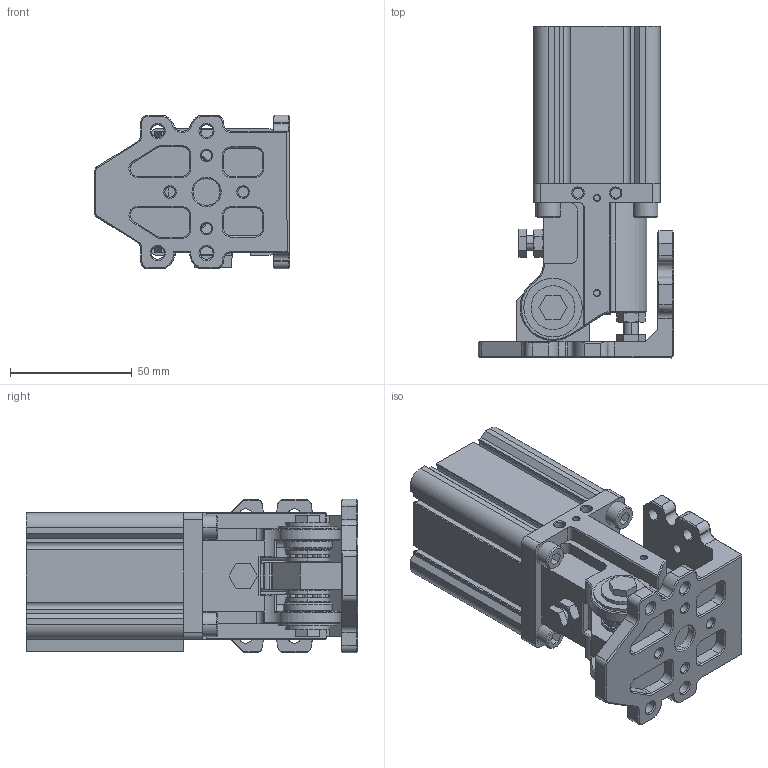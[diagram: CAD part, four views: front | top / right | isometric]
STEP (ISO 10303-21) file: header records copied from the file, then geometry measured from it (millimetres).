
FILE_DESCRIPTION(/* description */ (''),/* implementation_level */ '2;1');
FILE_NAME(/* name */ 'DHR2C-40M30-ZG-LB(2022).stp',/* time_stamp */ '2022-11-03T13:11:03+08:00',/* author */ (''),/* organization */ (''),/* preprocessor_version */ 'ST-DEVELOPER v14',/* originating_system */ 'SIEMENS PLM Software NX 8.0',/* authorisation */ '');
FILE_SCHEMA (('AP203_CONFIGURATION_CONTROLLED_3D_DESIGN_OF_MECHANICAL_PARTS_AND_ASSEMBLIES_MIM_LF { 1 0 10303 403 2 1 2}'));
Products named in the file (1): Admi1648FD98p4jd
Bounding box: 80.08 x 136.07 x 63.01 mm (x, y, z)
Volume: 271929.7 mm3; surface area: 94418.7 mm2
Topology: 55 solids, 55 shells, 1205 faces, 2916 edges, 1778 vertices
Faces by surface type: plane 512, cylinder 344, cone 259, sphere 48, bspline 30, torus 12
Full cylindrical faces by diameter (mm): 6 x2, 10 x6, 12 x1, 14 x1, 18 x2, 20 x2, 24 x2, 41.8 x2
Entity records: 52174 total; most frequent: CARTESIAN_POINT 24154, DIRECTION 5965, ORIENTED_EDGE 5558, EDGE_CURVE 2779, AXIS2_PLACEMENT_3D 2195, VERTEX_POINT 1775, LINE 1575, VECTOR 1575
